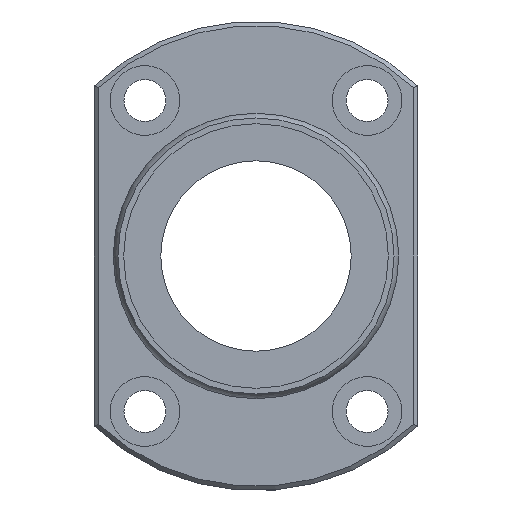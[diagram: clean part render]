
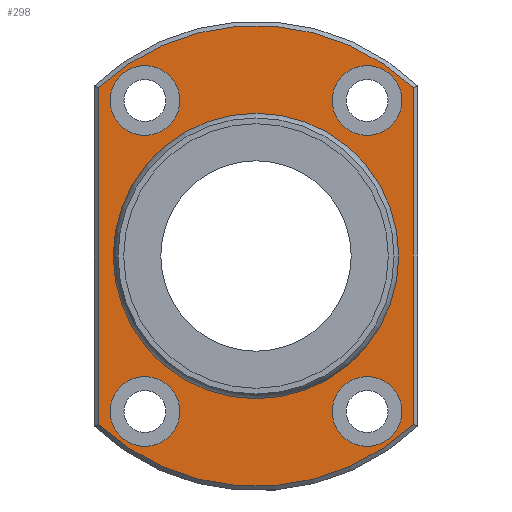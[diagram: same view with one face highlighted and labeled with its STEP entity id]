
A CAD part, left-side view. The second image highlights one B-rep face of the part: STEP entity #298.
In plain terms, the highlighted planar face has unit normal (-1, 0, 0).
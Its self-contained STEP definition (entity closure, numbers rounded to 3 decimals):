
#59=CARTESIAN_POINT('',(61.5,-24.8,26.508));
#60=VERTEX_POINT('',#59);
#68=CARTESIAN_POINT('',(61.5,-24.8,-26.508));
#69=VERTEX_POINT('',#68);
#70=CARTESIAN_POINT('',(61.5,-24.8,26.508));
#71=DIRECTION('',(0.0,0.0,-1.0));
#72=VECTOR('',#71,53.015);
#73=LINE('',#70,#72);
#74=EDGE_CURVE('',#60,#69,#73,.T.);
#101=CARTESIAN_POINT('',(61.5,24.8,-26.508));
#102=VERTEX_POINT('',#101);
#103=CARTESIAN_POINT('',(61.5,0.0,0.0));
#104=DIRECTION('',(1.0,0.0,0.0));
#105=DIRECTION('',(0.0,0.0,-1.0));
#106=AXIS2_PLACEMENT_3D('',#103,#104,#105);
#107=CIRCLE('',#106,36.3);
#108=EDGE_CURVE('',#69,#102,#107,.T.);
#134=CARTESIAN_POINT('',(61.5,24.8,26.508));
#135=VERTEX_POINT('',#134);
#136=CARTESIAN_POINT('',(61.5,24.8,-26.508));
#137=DIRECTION('',(0.0,0.0,1.0));
#138=VECTOR('',#137,53.015);
#139=LINE('',#136,#138);
#140=EDGE_CURVE('',#102,#135,#139,.T.);
#165=CARTESIAN_POINT('',(61.5,0.0,0.0));
#166=DIRECTION('',(1.0,0.0,0.0));
#167=DIRECTION('',(0.0,0.0,1.0));
#168=AXIS2_PLACEMENT_3D('',#165,#166,#167);
#169=CIRCLE('',#168,36.3);
#170=EDGE_CURVE('',#135,#60,#169,.T.);
#232=CARTESIAN_POINT('',(61.5,0.0,29.563));
#233=DIRECTION('',(-1.0,0.0,0.0));
#234=DIRECTION('',(0.0,0.0,1.0));
#235=AXIS2_PLACEMENT_3D('',#232,#233,#234);
#236=PLANE('',#235);
#237=ORIENTED_EDGE('',*,*,#74,.F.);
#238=ORIENTED_EDGE('',*,*,#170,.F.);
#239=ORIENTED_EDGE('',*,*,#140,.F.);
#240=ORIENTED_EDGE('',*,*,#108,.F.);
#241=EDGE_LOOP('',(#237,#238,#239,#240));
#242=FACE_OUTER_BOUND('',#241,.T.);
#243=CARTESIAN_POINT('',(61.5,0.0,22.127));
#244=VERTEX_POINT('',#243);
#245=CARTESIAN_POINT('',(61.5,0.0,0.0));
#246=DIRECTION('',(-1.0,0.0,0.0));
#247=DIRECTION('',(0.0,0.0,1.0));
#248=AXIS2_PLACEMENT_3D('',#245,#246,#247);
#249=CIRCLE('',#248,22.127);
#250=EDGE_CURVE('',#244,#244,#249,.T.);
#251=ORIENTED_EDGE('',*,*,#250,.F.);
#252=EDGE_LOOP('',(#251));
#253=FACE_BOUND('',#252,.T.);
#254=CARTESIAN_POINT('',(61.5,-12.,-24.5));
#255=VERTEX_POINT('',#254);
#256=CARTESIAN_POINT('',(61.5,-17.5,-24.5));
#257=DIRECTION('',(1.0,0.0,0.0));
#258=DIRECTION('',(0.0,1.0,0.0));
#259=AXIS2_PLACEMENT_3D('',#256,#257,#258);
#260=CIRCLE('',#259,5.5);
#261=EDGE_CURVE('',#255,#255,#260,.T.);
#262=ORIENTED_EDGE('',*,*,#261,.T.);
#263=EDGE_LOOP('',(#262));
#264=FACE_BOUND('',#263,.T.);
#265=CARTESIAN_POINT('',(61.5,-12.,24.5));
#266=VERTEX_POINT('',#265);
#267=CARTESIAN_POINT('',(61.5,-17.5,24.5));
#268=DIRECTION('',(1.0,0.0,0.0));
#269=DIRECTION('',(0.0,1.0,0.0));
#270=AXIS2_PLACEMENT_3D('',#267,#268,#269);
#271=CIRCLE('',#270,5.5);
#272=EDGE_CURVE('',#266,#266,#271,.T.);
#273=ORIENTED_EDGE('',*,*,#272,.T.);
#274=EDGE_LOOP('',(#273));
#275=FACE_BOUND('',#274,.T.);
#276=CARTESIAN_POINT('',(61.5,23.,-24.5));
#277=VERTEX_POINT('',#276);
#278=CARTESIAN_POINT('',(61.5,17.5,-24.5));
#279=DIRECTION('',(1.0,0.0,0.0));
#280=DIRECTION('',(0.0,1.0,0.0));
#281=AXIS2_PLACEMENT_3D('',#278,#279,#280);
#282=CIRCLE('',#281,5.5);
#283=EDGE_CURVE('',#277,#277,#282,.T.);
#284=ORIENTED_EDGE('',*,*,#283,.T.);
#285=EDGE_LOOP('',(#284));
#286=FACE_BOUND('',#285,.T.);
#287=CARTESIAN_POINT('',(61.5,23.,24.5));
#288=VERTEX_POINT('',#287);
#289=CARTESIAN_POINT('',(61.5,17.5,24.5));
#290=DIRECTION('',(1.0,0.0,0.0));
#291=DIRECTION('',(0.0,1.0,0.0));
#292=AXIS2_PLACEMENT_3D('',#289,#290,#291);
#293=CIRCLE('',#292,5.5);
#294=EDGE_CURVE('',#288,#288,#293,.T.);
#295=ORIENTED_EDGE('',*,*,#294,.T.);
#296=EDGE_LOOP('',(#295));
#297=FACE_BOUND('',#296,.T.);
#298=ADVANCED_FACE('',(#242,#253,#264,#275,#286,#297),#236,.T.);
